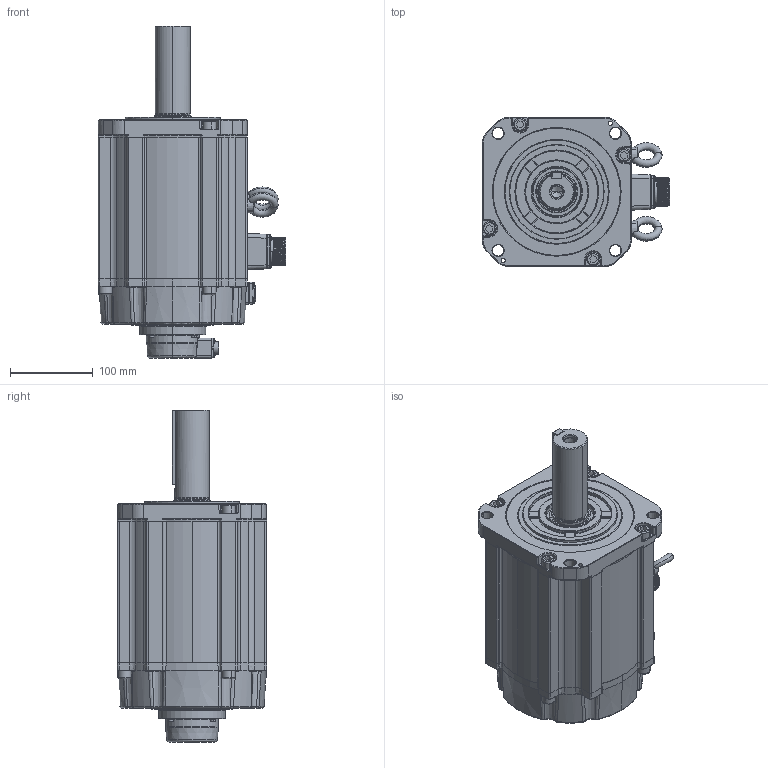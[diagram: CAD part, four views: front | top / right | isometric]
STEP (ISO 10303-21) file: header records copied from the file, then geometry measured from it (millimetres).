
FILE_DESCRIPTION (( 'STEP AP214' ), '1' );
FILE_NAME ('RSA1-M-180-5.5kw-B.STEP', '2024-08-12T09:30:45', ( '' ), ( '' ), 'SwSTEP 2.0', 'SolidWorks 2020', '' );
FILE_SCHEMA (( 'AUTOMOTIVE_DESIGN' ));
Length unit declared in the file: millimetre
Products named in the file (17): 130秶雄ん盄揤裔; 内六角圆柱头和平垫圈组合螺钉_M3x16; 180-M-5.5kw-儂褲; 180-翋粣-42粣噤; 裂遠蹟隊_M8; 180-ヶ傷裔; 180-惕掅綴傷裔; RSA1-M-180-5.5kw-B; 蚐猾_TC45x62x9; ﾊｮﾗﾖｲﾛﾅﾌﾍｷﾗﾔｼｷﾂﾝｶ､_M3x8; 130梓袧綴裔; 4140000005_电机内部编码器线_7x26AWG(0.1m-CMV1-10芯螺纹插座_GACJ3045); 180-瑤脣釱; す瑩_B12x8x90; 内六角圆柱头螺钉_M10x30; 坋趼羞攫芛蹟隊_M3x30; 180-惕掅雄薯脣釱
Assembly tree (37 placements, depth 2):
  RSA1-M-180-5.5kw-B
    180-M-5.5kw-儂褲
    180-ヶ傷裔
    180-瑤脣釱
    180-惕掅綴傷裔
    130梓袧綴裔
    4140000005_电机内部编码器线_7x26AWG(0.1m-CMV1-10芯螺纹插座_GACJ3045)
    180-惕掅雄薯脣釱
    180-翋粣-42粣噤
    す瑩_B12x8x90
    ﾊｮﾗﾖｲﾛﾅﾌﾍｷﾗﾔｼｷﾂﾝｶ､_M3x8  x4
    坋趼羞攫芛蹟隊_M3x30  x8
    内六角圆柱头螺钉_M10x30  x8
    内六角圆柱头和平垫圈组合螺钉_M3x16  x4
    130秶雄ん盄揤裔
    蚐猾_TC45x62x9
    裂遠蹟隊_M8  x2
Bounding box: 226.5 x 180 x 400.5 mm (x, y, z)
Volume: 6619332.5 mm3; surface area: 527399.8 mm2
Topology: 42 solids, 43 shells, 3768 faces, 9453 edges, 5934 vertices
Faces by surface type: plane 1597, cylinder 871, bspline 543, cone 379, torus 324, sphere 54
Entity records: 119890 total; most frequent: CARTESIAN_POINT 42783, ORIENTED_EDGE 16396, DIRECTION 14922, EDGE_CURVE 8198, AXIS2_PLACEMENT_3D 5353, VERTEX_POINT 5166, LINE 4216, VECTOR 4216
